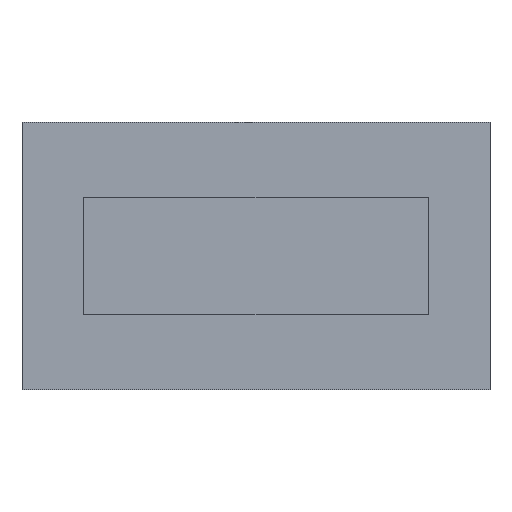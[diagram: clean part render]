
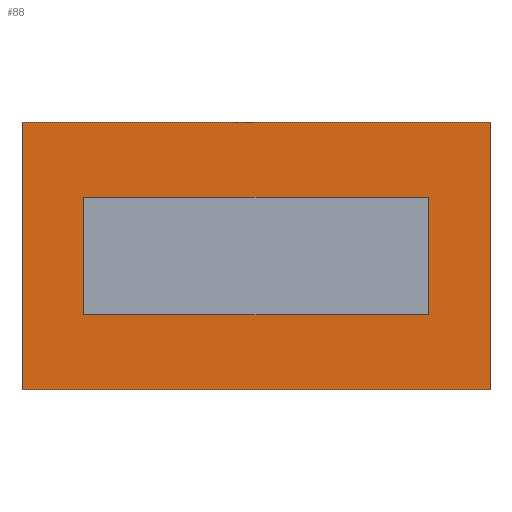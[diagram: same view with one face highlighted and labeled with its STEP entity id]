
A CAD part, top view. The second image highlights one B-rep face of the part: STEP entity #88.
In plain terms, the highlighted planar face has unit normal (0, 0, 1).
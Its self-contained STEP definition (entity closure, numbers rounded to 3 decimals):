
#24 = VERTEX_POINT('',#25);
#25 = CARTESIAN_POINT('',(-17.5,-10.,4.));
#40 = VERTEX_POINT('',#41);
#41 = CARTESIAN_POINT('',(-17.5,10.,4.));
#47 = EDGE_CURVE('',#24,#40,#48,.T.);
#48 = LINE('',#49,#50);
#49 = CARTESIAN_POINT('',(-17.5,-10.,4.));
#50 = VECTOR('',#51,1.);
#51 = DIRECTION('',(0.,1.,0.));
#70 = EDGE_CURVE('',#24,#71,#73,.T.);
#71 = VERTEX_POINT('',#72);
#72 = CARTESIAN_POINT('',(17.5,-10.,4.));
#73 = LINE('',#74,#75);
#74 = CARTESIAN_POINT('',(-17.5,-10.,4.));
#75 = VECTOR('',#76,1.);
#76 = DIRECTION('',(1.,0.,0.));
#88 = ADVANCED_FACE('',(#89,#107),#141,.T.);
#89 = FACE_BOUND('',#90,.T.);
#90 = EDGE_LOOP('',(#91,#92,#93,#101));
#91 = ORIENTED_EDGE('',*,*,#47,.F.);
#92 = ORIENTED_EDGE('',*,*,#70,.T.);
#93 = ORIENTED_EDGE('',*,*,#94,.T.);
#94 = EDGE_CURVE('',#71,#95,#97,.T.);
#95 = VERTEX_POINT('',#96);
#96 = CARTESIAN_POINT('',(17.5,10.,4.));
#97 = LINE('',#98,#99);
#98 = CARTESIAN_POINT('',(17.5,-10.,4.));
#99 = VECTOR('',#100,1.);
#100 = DIRECTION('',(0.,1.,0.));
#101 = ORIENTED_EDGE('',*,*,#102,.F.);
#102 = EDGE_CURVE('',#40,#95,#103,.T.);
#103 = LINE('',#104,#105);
#104 = CARTESIAN_POINT('',(-17.5,10.,4.));
#105 = VECTOR('',#106,1.);
#106 = DIRECTION('',(1.,0.,0.));
#107 = FACE_BOUND('',#108,.T.);
#108 = EDGE_LOOP('',(#109,#119,#127,#135));
#109 = ORIENTED_EDGE('',*,*,#110,.T.);
#110 = EDGE_CURVE('',#111,#113,#115,.T.);
#111 = VERTEX_POINT('',#112);
#112 = CARTESIAN_POINT('',(12.9,-4.4,4.));
#113 = VERTEX_POINT('',#114);
#114 = CARTESIAN_POINT('',(-12.9,-4.4,4.));
#115 = LINE('',#116,#117);
#116 = CARTESIAN_POINT('',(-15.2,-4.4,4.));
#117 = VECTOR('',#118,1.);
#118 = DIRECTION('',(-1.,0.,0.));
#119 = ORIENTED_EDGE('',*,*,#120,.T.);
#120 = EDGE_CURVE('',#113,#121,#123,.T.);
#121 = VERTEX_POINT('',#122);
#122 = CARTESIAN_POINT('',(-12.9,4.4,4.));
#123 = LINE('',#124,#125);
#124 = CARTESIAN_POINT('',(-12.9,-7.2,4.));
#125 = VECTOR('',#126,1.);
#126 = DIRECTION('',(0.,1.,0.));
#127 = ORIENTED_EDGE('',*,*,#128,.F.);
#128 = EDGE_CURVE('',#129,#121,#131,.T.);
#129 = VERTEX_POINT('',#130);
#130 = CARTESIAN_POINT('',(12.9,4.4,4.));
#131 = LINE('',#132,#133);
#132 = CARTESIAN_POINT('',(-15.2,4.4,4.));
#133 = VECTOR('',#134,1.);
#134 = DIRECTION('',(-1.,0.,0.));
#135 = ORIENTED_EDGE('',*,*,#136,.F.);
#136 = EDGE_CURVE('',#111,#129,#137,.T.);
#137 = LINE('',#138,#139);
#138 = CARTESIAN_POINT('',(12.9,-7.2,4.));
#139 = VECTOR('',#140,1.);
#140 = DIRECTION('',(0.,1.,0.));
#141 = PLANE('',#142);
#142 = AXIS2_PLACEMENT_3D('',#143,#144,#145);
#143 = CARTESIAN_POINT('',(-17.5,-10.,4.));
#144 = DIRECTION('',(0.,0.,1.));
#145 = DIRECTION('',(1.,0.,0.));
